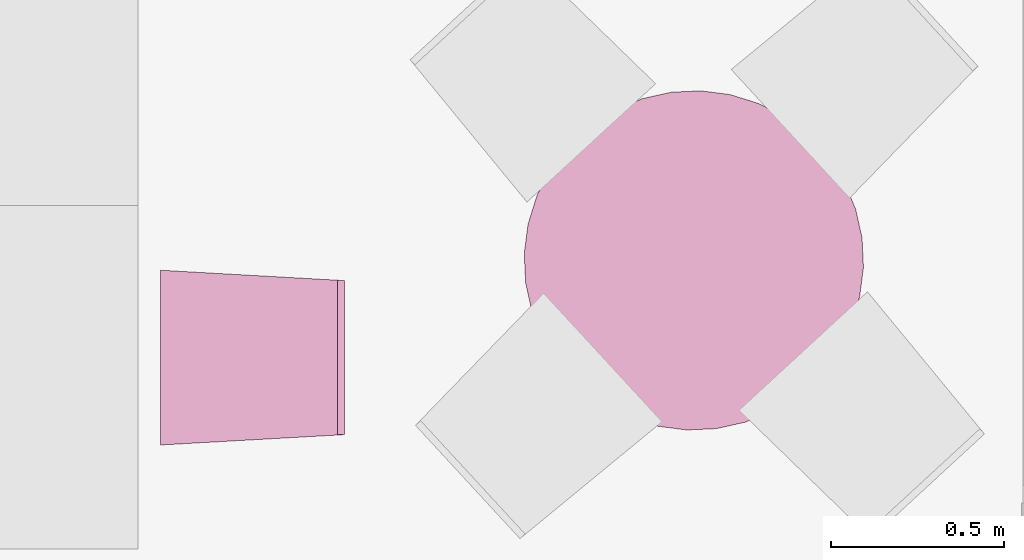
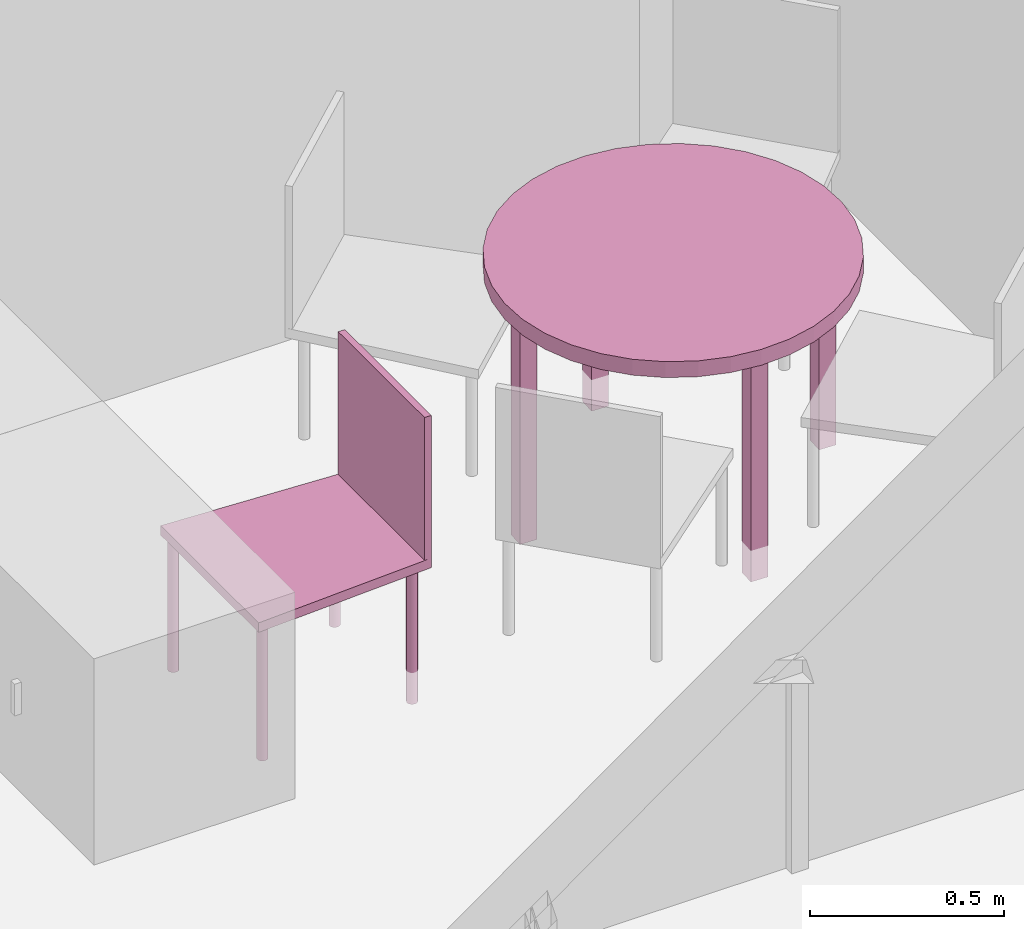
"""IFC4 building model written with IfcOpenShell, lengths in metres."""

from ifc_helpers import new_model, entity, si_unit, converted_unit, derived_unit, frame, origin, place, context, subcontext, project, spatial, faceted_brep, element, save


model = new_model("IFC4")

# Units and contexts
model_context = context("Model", 3, precision=1e-05, world=origin())
body_context = subcontext(model_context, "Body", "Model", "MODEL_VIEW")
ifc_project = project(units=[si_unit("LENGTHUNIT", "METRE"), si_unit("AREAUNIT", "SQUARE_METRE"), si_unit("VOLUMEUNIT", "CUBIC_METRE"), si_unit("MASSUNIT", "GRAM", prefix="KILO"), converted_unit("PLANEANGLEUNIT", "DEGREE", entity("IfcPlaneAngleMeasure", 0.0174532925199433), si_unit("PLANEANGLEUNIT", "RADIAN"), dimensions=[0, 0, 0, 0, 0, 0, 0]), derived_unit("THERMALTRANSMITTANCEUNIT", [(si_unit("POWERUNIT", "WATT"), 1), (si_unit("THERMODYNAMICTEMPERATUREUNIT", "KELVIN"), -1), (si_unit("LENGTHUNIT", "METRE"), -2)]), derived_unit("VOLUMETRICFLOWRATEUNIT", [(si_unit("LENGTHUNIT", "METRE"), 3), (converted_unit("TIMEUNIT", "hour", entity("IfcTimeMeasure", 3600.0), si_unit("TIMEUNIT", "SECOND"), dimensions=[0, 0, 1, 0, 0, 0, 0]), -1), (si_unit("LENGTHUNIT", "METRE"), -1)])], contexts=[model_context])

# Building, storeys
building_placement = place(None, origin())
building = spatial("IfcBuilding", under=ifc_project, at=building_placement, Name="HABITATGE PLURIFAMILIAR", CompositionType="ELEMENT")
storey_1_placement = place(building_placement, frame((0.0, 0.0, 12.27)))
storey_1 = spatial("IfcBuildingStorey", under=building, at=storey_1_placement, Name="PLANTA TERCERA", CompositionType="ELEMENT", Elevation=12.27)
storey_2_placement = place(storey_1_placement, frame((0.0, 0.0, 9.26)))
storey_2 = spatial("IfcBuildingStorey", under=storey_1, at=storey_2_placement, Name="NOU", CompositionType="PARTIAL")

# Furniture
furniture_1_placement = place(storey_2_placement, frame((401.817637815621, 20.9508805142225, -9.36074913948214)))
element("IfcFurniture", 1, at=furniture_1_placement, inside=storey_2, Name="Cadira confident_P3", context=body_context, shape_type="Brep", body=[
    faceted_brep([(0.025088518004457, 0.00928763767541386, 0.0), (0.0276826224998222, 0.00951305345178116, 0.0), (0.0301981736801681, 0.0101855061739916, 0.0), (0.0325587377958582, 0.0112845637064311, 0.0), (0.0346925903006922, 0.0127768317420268, 0.0), (0.0365348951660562, 0.0146169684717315, 0.0), (0.038029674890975, 0.0167490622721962, 0.0), (0.0391315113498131, 0.0191083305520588, 0.0), (0.0398069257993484, 0.0216230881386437, 0.0), (0.0400353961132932, 0.0242169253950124, 0.0), (0.0398099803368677, 0.0268110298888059, 0.0), (0.0391375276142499, 0.0293265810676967, 0.0), (0.0380384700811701, 0.0316871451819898, 0.0), (0.036546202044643, 0.0338209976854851, 0.0), (0.0347060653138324, 0.0356633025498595, 0.0), (0.0325739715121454, 0.037158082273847, 0.0), (0.0302147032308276, 0.0382599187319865, 0.0), (0.0276999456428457, 0.0389353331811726, 0.0), (0.0251061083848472, 0.0391638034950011, 0.0), (0.022512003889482, 0.0389383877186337, 0.0), (0.0199964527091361, 0.0382659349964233, 0.0), (0.0176358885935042, 0.037166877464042, 0.0), (0.0155020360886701, 0.0356746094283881, 0.0), (0.0136597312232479, 0.0338344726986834, 0.0), (0.0121649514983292, 0.0317023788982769, 0.0), (0.0110631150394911, 0.0293431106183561, 0.0), (0.0103877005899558, 0.0268283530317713, 0.0), (0.0101592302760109, 0.0242345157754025, 0.0), (0.0103846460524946, 0.021640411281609, 0.0), (0.0110570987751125, 0.0191248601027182, 0.0), (0.0121561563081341, 0.0167642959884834, 0.0), (0.0136484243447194, 0.0146304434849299, 0.0), (0.01548856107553, 0.0127881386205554, 0.0), (0.017620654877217, 0.0112933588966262, 0.0), (0.0199799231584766, 0.0101915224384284, 0.0), (0.0224946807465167, 0.0095161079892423, 0.0), (0.025088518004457, 0.00928763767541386, 0.448281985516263), (0.0224946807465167, 0.0095161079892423, 0.448281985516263), (0.0199799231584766, 0.0101915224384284, 0.448281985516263), (0.017620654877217, 0.0112933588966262, 0.448281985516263), (0.01548856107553, 0.0127881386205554, 0.448281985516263), (0.0136484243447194, 0.0146304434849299, 0.448281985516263), (0.0121561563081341, 0.0167642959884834, 0.448281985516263), (0.0110570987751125, 0.0191248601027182, 0.448281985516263), (0.0103846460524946, 0.021640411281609, 0.448281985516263), (0.0101592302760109, 0.0242345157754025, 0.448281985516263), (0.0103877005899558, 0.0268283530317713, 0.448281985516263), (0.0110631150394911, 0.0293431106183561, 0.448281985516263), (0.0121649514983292, 0.0317023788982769, 0.448281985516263), (0.0136597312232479, 0.0338344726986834, 0.448281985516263), (0.0155020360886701, 0.0356746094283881, 0.448281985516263), (0.0176358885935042, 0.037166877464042, 0.448281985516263), (0.0199964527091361, 0.0382659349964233, 0.448281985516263), (0.022512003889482, 0.0389383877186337, 0.448281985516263), (0.0251061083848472, 0.0391638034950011, 0.448281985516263), (0.0276999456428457, 0.0389353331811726, 0.448281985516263), (0.0302147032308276, 0.0382599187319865, 0.448281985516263), (0.0325739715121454, 0.037158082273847, 0.448281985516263), (0.0347060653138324, 0.0356633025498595, 0.448281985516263), (0.036546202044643, 0.0338209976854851, 0.448281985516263), (0.0380384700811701, 0.0316871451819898, 0.448281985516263), (0.0391375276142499, 0.0293265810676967, 0.448281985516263), (0.0398099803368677, 0.0268110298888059, 0.448281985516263), (0.0400353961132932, 0.0242169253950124, 0.448281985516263), (0.0398069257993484, 0.0216230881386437, 0.448281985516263), (0.0391315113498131, 0.0191083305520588, 0.448281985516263), (0.038029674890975, 0.0167490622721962, 0.448281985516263), (0.0365348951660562, 0.0146169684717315, 0.448281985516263), (0.0346925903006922, 0.0127768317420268, 0.448281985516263), (0.0325587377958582, 0.0112845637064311, 0.448281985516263), (0.0301981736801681, 0.0101855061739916, 0.448281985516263), (0.0276826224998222, 0.00951305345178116, 0.448281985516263)], [[[0, 1, 2, 3, 4, 5, 6, 7, 8, 9, 10, 11, 12, 13, 14, 15, 16, 17, 18, 19, 20, 21, 22, 23, 24, 25, 26, 27, 28, 29, 30, 31, 32, 33, 34, 35]], [[36, 37, 38, 39, 40, 41, 42, 43, 44, 45, 46, 47, 48, 49, 50, 51, 52, 53, 54, 55, 56, 57, 58, 59, 60, 61, 62, 63, 64, 65, 66, 67, 68, 69, 70, 71]], [[1, 0, 36, 71]], [[2, 1, 71, 70]], [[3, 2, 70, 69]], [[4, 3, 69, 68]], [[5, 4, 68, 67]], [[6, 5, 67, 66]], [[7, 6, 66, 65]], [[8, 7, 65, 64]], [[9, 8, 64, 63]], [[10, 9, 63, 62]], [[11, 10, 62, 61]], [[12, 11, 61, 60]], [[13, 12, 60, 59]], [[14, 13, 59, 58]], [[15, 14, 58, 57]], [[16, 15, 57, 56]], [[17, 16, 56, 55]], [[18, 17, 55, 54]], [[19, 18, 54, 53]], [[20, 19, 53, 52]], [[21, 20, 52, 51]], [[22, 21, 51, 50]], [[23, 22, 50, 49]], [[24, 23, 49, 48]], [[25, 24, 48, 47]], [[26, 25, 47, 46]], [[27, 26, 46, 45]], [[28, 27, 45, 44]], [[29, 28, 44, 43]], [[30, 29, 43, 42]], [[31, 30, 42, 41]], [[32, 31, 41, 40]], [[33, 32, 40, 39]], [[34, 33, 39, 38]], [[35, 34, 38, 37]], [[0, 35, 37, 36]]], orient=[[False], [False], [False], [False], [False], [False], [False], [False], [False], [False], [False], [False], [False], [False], [False], [False], [False], [False], [False], [False], [False], [False], [False], [False], [False], [False], [False], [False], [False], [False], [False], [False], [False], [False], [False], [False], [False], [False]]),
    faceted_brep([(0.487495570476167, 0.0369256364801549, 0.0), (0.490089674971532, 0.0371510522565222, 0.0), (0.492605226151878, 0.0378235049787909, 0.0), (0.494965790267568, 0.0389225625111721, 0.0), (0.497099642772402, 0.0404148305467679, 0.0), (0.498941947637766, 0.0422549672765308, 0.0), (0.500436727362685, 0.0443870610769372, 0.0), (0.501538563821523, 0.0467463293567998, 0.0), (0.502213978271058, 0.0492610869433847, 0.0), (0.502442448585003, 0.0518549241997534, 0.0), (0.502217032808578, 0.054449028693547, 0.0), (0.501544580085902, 0.0569645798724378, 0.0), (0.50044552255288, 0.0593251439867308, 0.0), (0.498953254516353, 0.0614589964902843, 0.0), (0.497113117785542, 0.0633013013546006, 0.0), (0.494981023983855, 0.064796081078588, 0.0), (0.492621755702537, 0.0658979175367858, 0.0), (0.490106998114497, 0.0665733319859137, 0.0), (0.487513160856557, 0.0668018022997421, 0.0), (0.484919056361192, 0.066576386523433, 0.0), (0.482403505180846, 0.0659039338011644, 0.0), (0.480042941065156, 0.0648048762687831, 0.0), (0.47790908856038, 0.0633126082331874, 0.0), (0.476066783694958, 0.0614724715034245, 0.0), (0.474572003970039, 0.059340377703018, 0.0), (0.473470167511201, 0.0569811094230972, 0.0), (0.472794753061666, 0.0544663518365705, 0.0), (0.472566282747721, 0.0518725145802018, 0.0), (0.472791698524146, 0.0492784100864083, 0.0), (0.473464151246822, 0.0467628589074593, 0.0), (0.474563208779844, 0.0444022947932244, 0.0), (0.476055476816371, 0.0422684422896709, 0.0), (0.477895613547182, 0.0404261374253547, 0.0), (0.480027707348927, 0.0389313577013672, 0.0), (0.482386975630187, 0.0378295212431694, 0.0), (0.484901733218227, 0.0371541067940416, 0.0), (0.487495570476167, 0.0369256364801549, 0.448281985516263), (0.484901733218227, 0.0371541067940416, 0.448281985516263), (0.482386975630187, 0.0378295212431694, 0.448281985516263), (0.480027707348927, 0.0389313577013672, 0.448281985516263), (0.477895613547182, 0.0404261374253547, 0.448281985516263), (0.476055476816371, 0.0422684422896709, 0.448281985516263), (0.474563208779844, 0.0444022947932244, 0.448281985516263), (0.473464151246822, 0.0467628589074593, 0.448281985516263), (0.472791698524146, 0.0492784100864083, 0.448281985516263), (0.472566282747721, 0.0518725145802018, 0.448281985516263), (0.472794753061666, 0.0544663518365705, 0.448281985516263), (0.473470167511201, 0.0569811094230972, 0.448281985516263), (0.474572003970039, 0.059340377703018, 0.448281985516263), (0.476066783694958, 0.0614724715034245, 0.448281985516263), (0.47790908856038, 0.0633126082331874, 0.448281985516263), (0.480042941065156, 0.0648048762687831, 0.448281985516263), (0.482403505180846, 0.0659039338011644, 0.448281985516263), (0.484919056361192, 0.066576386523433, 0.448281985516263), (0.487513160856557, 0.0668018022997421, 0.448281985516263), (0.490106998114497, 0.0665733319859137, 0.448281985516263), (0.492621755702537, 0.0658979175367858, 0.448281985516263), (0.494981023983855, 0.064796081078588, 0.448281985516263), (0.497113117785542, 0.0633013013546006, 0.448281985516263), (0.498953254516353, 0.0614589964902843, 0.448281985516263), (0.50044552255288, 0.0593251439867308, 0.448281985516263), (0.501544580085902, 0.0569645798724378, 0.448281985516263), (0.502217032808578, 0.054449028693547, 0.448281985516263), (0.502442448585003, 0.0518549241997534, 0.448281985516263), (0.502213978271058, 0.0492610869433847, 0.448281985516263), (0.501538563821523, 0.0467463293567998, 0.448281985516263), (0.500436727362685, 0.0443870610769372, 0.448281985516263), (0.498941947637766, 0.0422549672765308, 0.448281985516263), (0.497099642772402, 0.0404148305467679, 0.448281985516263), (0.494965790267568, 0.0389225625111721, 0.448281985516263), (0.492605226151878, 0.0378235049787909, 0.448281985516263), (0.490089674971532, 0.0371510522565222, 0.448281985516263)], [[[0, 1, 2, 3, 4, 5, 6, 7, 8, 9, 10, 11, 12, 13, 14, 15, 16, 17, 18, 19, 20, 21, 22, 23, 24, 25, 26, 27, 28, 29, 30, 31, 32, 33, 34, 35]], [[36, 37, 38, 39, 40, 41, 42, 43, 44, 45, 46, 47, 48, 49, 50, 51, 52, 53, 54, 55, 56, 57, 58, 59, 60, 61, 62, 63, 64, 65, 66, 67, 68, 69, 70, 71]], [[1, 0, 36, 71]], [[2, 1, 71, 70]], [[3, 2, 70, 69]], [[4, 3, 69, 68]], [[5, 4, 68, 67]], [[6, 5, 67, 66]], [[7, 6, 66, 65]], [[8, 7, 65, 64]], [[9, 8, 64, 63]], [[10, 9, 63, 62]], [[11, 10, 62, 61]], [[12, 11, 61, 60]], [[13, 12, 60, 59]], [[14, 13, 59, 58]], [[15, 14, 58, 57]], [[16, 15, 57, 56]], [[17, 16, 56, 55]], [[18, 17, 55, 54]], [[19, 18, 54, 53]], [[20, 19, 53, 52]], [[21, 20, 52, 51]], [[22, 21, 51, 50]], [[23, 22, 50, 49]], [[24, 23, 49, 48]], [[25, 24, 48, 47]], [[26, 25, 47, 46]], [[27, 26, 46, 45]], [[28, 27, 45, 44]], [[29, 28, 44, 43]], [[30, 29, 43, 42]], [[31, 30, 42, 41]], [[32, 31, 41, 40]], [[33, 32, 40, 39]], [[34, 33, 39, 38]], [[35, 34, 38, 37]], [[0, 35, 37, 36]]], orient=[[False], [False], [False], [False], [False], [False], [False], [False], [False], [False], [False], [False], [False], [False], [False], [False], [False], [False], [False], [False], [False], [False], [False], [False], [False], [False], [False], [False], [False], [False], [False], [False], [False], [False], [False], [False], [False], [False]]),
    faceted_brep([(0.0250885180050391, 0.469287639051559, 0.0), (0.0276826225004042, 0.469513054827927, 0.0), (0.0301981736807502, 0.470185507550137, 0.0), (0.032558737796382, 0.471284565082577, 0.0), (0.0346925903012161, 0.472776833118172, 0.0), (0.0365348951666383, 0.474616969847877, 0.0), (0.0380296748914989, 0.476749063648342, 0.0), (0.0391315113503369, 0.479108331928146, 0.0), (0.0398069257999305, 0.481623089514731, 0.0), (0.0400353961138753, 0.484216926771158, 0.0), (0.0398099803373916, 0.486811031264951, 0.0), (0.0391375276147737, 0.489326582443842, 0.0), (0.038038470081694, 0.491687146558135, 0.0), (0.0365462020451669, 0.493820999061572, 0.0), (0.0347060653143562, 0.495663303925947, 0.0), (0.0325739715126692, 0.497158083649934, 0.0), (0.0302147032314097, 0.498259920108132, 0.0), (0.0276999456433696, 0.498935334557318, 0.0), (0.0251061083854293, 0.499163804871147, 0.0), (0.0225120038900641, 0.498938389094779, 0.0), (0.0199964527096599, 0.498265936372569, 0.0), (0.0176358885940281, 0.497166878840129, 0.0), (0.015502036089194, 0.495674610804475, 0.0), (0.01365973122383, 0.493834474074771, 0.0), (0.0121649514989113, 0.491702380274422, 0.0), (0.0110631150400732, 0.489343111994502, 0.0), (0.0103877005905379, 0.486828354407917, 0.0), (0.0101592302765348, 0.484234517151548, 0.0), (0.0103846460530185, 0.481640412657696, 0.0), (0.0110570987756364, 0.479124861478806, 0.0), (0.0121561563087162, 0.476764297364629, 0.0), (0.0136484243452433, 0.474630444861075, 0.0), (0.0154885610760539, 0.472788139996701, 0.0), (0.0176206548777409, 0.471293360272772, 0.0), (0.0199799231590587, 0.470191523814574, 0.0), (0.0224946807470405, 0.469516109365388, 0.0), (0.0250885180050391, 0.469287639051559, 0.448281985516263), (0.0224946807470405, 0.469516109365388, 0.448281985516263), (0.0199799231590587, 0.470191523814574, 0.448281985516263), (0.0176206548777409, 0.471293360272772, 0.448281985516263), (0.0154885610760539, 0.472788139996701, 0.448281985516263), (0.0136484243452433, 0.474630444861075, 0.448281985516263), (0.0121561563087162, 0.476764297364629, 0.448281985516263), (0.0110570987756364, 0.479124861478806, 0.448281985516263), (0.0103846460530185, 0.481640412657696, 0.448281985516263), (0.0101592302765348, 0.484234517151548, 0.448281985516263), (0.0103877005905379, 0.486828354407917, 0.448281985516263), (0.0110631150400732, 0.489343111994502, 0.448281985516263), (0.0121649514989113, 0.491702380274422, 0.448281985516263), (0.01365973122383, 0.493834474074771, 0.448281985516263), (0.015502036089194, 0.495674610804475, 0.448281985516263), (0.0176358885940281, 0.497166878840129, 0.448281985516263), (0.0199964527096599, 0.498265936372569, 0.448281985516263), (0.0225120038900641, 0.498938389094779, 0.448281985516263), (0.0251061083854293, 0.499163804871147, 0.448281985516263), (0.0276999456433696, 0.498935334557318, 0.448281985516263), (0.0302147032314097, 0.498259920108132, 0.448281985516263), (0.0325739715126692, 0.497158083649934, 0.448281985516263), (0.0347060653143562, 0.495663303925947, 0.448281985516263), (0.0365462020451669, 0.493820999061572, 0.448281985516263), (0.038038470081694, 0.491687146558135, 0.448281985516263), (0.0391375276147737, 0.489326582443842, 0.448281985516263), (0.0398099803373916, 0.486811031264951, 0.448281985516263), (0.0400353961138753, 0.484216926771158, 0.448281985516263), (0.0398069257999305, 0.481623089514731, 0.448281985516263), (0.0391315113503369, 0.479108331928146, 0.448281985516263), (0.0380296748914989, 0.476749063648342, 0.448281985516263), (0.0365348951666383, 0.474616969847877, 0.448281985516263), (0.0346925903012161, 0.472776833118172, 0.448281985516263), (0.032558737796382, 0.471284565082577, 0.448281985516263), (0.0301981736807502, 0.470185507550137, 0.448281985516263), (0.0276826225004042, 0.469513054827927, 0.448281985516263)], [[[0, 1, 2, 3, 4, 5, 6, 7, 8, 9, 10, 11, 12, 13, 14, 15, 16, 17, 18, 19, 20, 21, 22, 23, 24, 25, 26, 27, 28, 29, 30, 31, 32, 33, 34, 35]], [[36, 37, 38, 39, 40, 41, 42, 43, 44, 45, 46, 47, 48, 49, 50, 51, 52, 53, 54, 55, 56, 57, 58, 59, 60, 61, 62, 63, 64, 65, 66, 67, 68, 69, 70, 71]], [[1, 0, 36, 71]], [[2, 1, 71, 70]], [[3, 2, 70, 69]], [[4, 3, 69, 68]], [[5, 4, 68, 67]], [[6, 5, 67, 66]], [[7, 6, 66, 65]], [[8, 7, 65, 64]], [[9, 8, 64, 63]], [[10, 9, 63, 62]], [[11, 10, 62, 61]], [[12, 11, 61, 60]], [[13, 12, 60, 59]], [[14, 13, 59, 58]], [[15, 14, 58, 57]], [[16, 15, 57, 56]], [[17, 16, 56, 55]], [[18, 17, 55, 54]], [[19, 18, 54, 53]], [[20, 19, 53, 52]], [[21, 20, 52, 51]], [[22, 21, 51, 50]], [[23, 22, 50, 49]], [[24, 23, 49, 48]], [[25, 24, 48, 47]], [[26, 25, 47, 46]], [[27, 26, 46, 45]], [[28, 27, 45, 44]], [[29, 28, 44, 43]], [[30, 29, 43, 42]], [[31, 30, 42, 41]], [[32, 31, 41, 40]], [[33, 32, 40, 39]], [[34, 33, 39, 38]], [[35, 34, 38, 37]], [[0, 35, 37, 36]]], orient=[[False], [False], [False], [False], [False], [False], [False], [False], [False], [False], [False], [False], [False], [False], [False], [False], [False], [False], [False], [False], [False], [False], [False], [False], [False], [False], [False], [False], [False], [False], [False], [False], [False], [False], [False], [False], [False], [False]]),
    faceted_brep([(0.487495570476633, 0.436925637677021, 0.0), (0.490089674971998, 0.43715105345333, 0.0), (0.492605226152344, 0.437823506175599, 0.0), (0.494965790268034, 0.43892256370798, 0.0), (0.49709964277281, 0.440414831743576, 0.0), (0.498941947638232, 0.442254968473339, 0.0), (0.500436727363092, 0.444387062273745, 0.0), (0.50153856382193, 0.446746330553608, 0.0), (0.502213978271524, 0.449261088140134, 0.0), (0.502442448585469, 0.451854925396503, 0.0), (0.502217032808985, 0.454449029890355, 0.0), (0.501544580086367, 0.456964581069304, 0.0), (0.500445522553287, 0.45932514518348, 0.0), (0.498953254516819, 0.461458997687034, 0.0), (0.49711311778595, 0.46330130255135, 0.0), (0.494981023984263, 0.464796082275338, 0.0), (0.492621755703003, 0.465897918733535, 0.0), (0.490106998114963, 0.466573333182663, 0.0), (0.487513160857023, 0.46680180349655, 0.0), (0.484919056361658, 0.466576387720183, 0.0), (0.482403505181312, 0.465903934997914, 0.0), (0.480042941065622, 0.464804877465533, 0.0), (0.477909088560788, 0.463312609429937, 0.0), (0.476066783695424, 0.461472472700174, 0.0), (0.474572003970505, 0.459340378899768, 0.0), (0.473470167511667, 0.456981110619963, 0.0), (0.472794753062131, 0.454466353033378, 0.0), (0.472566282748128, 0.451872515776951, 0.0), (0.472791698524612, 0.449278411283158, 0.0), (0.47346415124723, 0.446762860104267, 0.0), (0.47456320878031, 0.444402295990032, 0.0), (0.476055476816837, 0.442268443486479, 0.0), (0.477895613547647, 0.440426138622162, 0.0), (0.480027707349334, 0.438931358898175, 0.0), (0.482386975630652, 0.437829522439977, 0.0), (0.484901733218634, 0.437154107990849, 0.0), (0.487495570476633, 0.436925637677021, 0.448281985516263), (0.484901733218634, 0.437154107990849, 0.448281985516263), (0.482386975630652, 0.437829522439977, 0.448281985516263), (0.480027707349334, 0.438931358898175, 0.448281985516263), (0.477895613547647, 0.440426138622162, 0.448281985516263), (0.476055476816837, 0.442268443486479, 0.448281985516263), (0.47456320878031, 0.444402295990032, 0.448281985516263), (0.47346415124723, 0.446762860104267, 0.448281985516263), (0.472791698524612, 0.449278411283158, 0.448281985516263), (0.472566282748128, 0.451872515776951, 0.448281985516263), (0.472794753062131, 0.454466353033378, 0.448281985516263), (0.473470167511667, 0.456981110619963, 0.448281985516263), (0.474572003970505, 0.459340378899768, 0.448281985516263), (0.476066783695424, 0.461472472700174, 0.448281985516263), (0.477909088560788, 0.463312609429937, 0.448281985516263), (0.480042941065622, 0.464804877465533, 0.448281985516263), (0.482403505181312, 0.465903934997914, 0.448281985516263), (0.484919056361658, 0.466576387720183, 0.448281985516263), (0.487513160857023, 0.46680180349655, 0.448281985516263), (0.490106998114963, 0.466573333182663, 0.448281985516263), (0.492621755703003, 0.465897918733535, 0.448281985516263), (0.494981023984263, 0.464796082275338, 0.448281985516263), (0.49711311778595, 0.46330130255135, 0.448281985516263), (0.498953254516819, 0.461458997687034, 0.448281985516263), (0.500445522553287, 0.45932514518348, 0.448281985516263), (0.501544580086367, 0.456964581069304, 0.448281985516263), (0.502217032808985, 0.454449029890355, 0.448281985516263), (0.502442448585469, 0.451854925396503, 0.448281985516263), (0.502213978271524, 0.449261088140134, 0.448281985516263), (0.50153856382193, 0.446746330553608, 0.448281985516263), (0.500436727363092, 0.444387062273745, 0.448281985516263), (0.498941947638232, 0.442254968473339, 0.448281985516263), (0.49709964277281, 0.440414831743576, 0.448281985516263), (0.494965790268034, 0.43892256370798, 0.448281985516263), (0.492605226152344, 0.437823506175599, 0.448281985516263), (0.490089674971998, 0.43715105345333, 0.448281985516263)], [[[0, 1, 2, 3, 4, 5, 6, 7, 8, 9, 10, 11, 12, 13, 14, 15, 16, 17, 18, 19, 20, 21, 22, 23, 24, 25, 26, 27, 28, 29, 30, 31, 32, 33, 34, 35]], [[36, 37, 38, 39, 40, 41, 42, 43, 44, 45, 46, 47, 48, 49, 50, 51, 52, 53, 54, 55, 56, 57, 58, 59, 60, 61, 62, 63, 64, 65, 66, 67, 68, 69, 70, 71]], [[1, 0, 36, 71]], [[2, 1, 71, 70]], [[3, 2, 70, 69]], [[4, 3, 69, 68]], [[5, 4, 68, 67]], [[6, 5, 67, 66]], [[7, 6, 66, 65]], [[8, 7, 65, 64]], [[9, 8, 64, 63]], [[10, 9, 63, 62]], [[11, 10, 62, 61]], [[12, 11, 61, 60]], [[13, 12, 60, 59]], [[14, 13, 59, 58]], [[15, 14, 58, 57]], [[16, 15, 57, 56]], [[17, 16, 56, 55]], [[18, 17, 55, 54]], [[19, 18, 54, 53]], [[20, 19, 53, 52]], [[21, 20, 52, 51]], [[22, 21, 51, 50]], [[23, 22, 50, 49]], [[24, 23, 49, 48]], [[25, 24, 48, 47]], [[26, 25, 47, 46]], [[27, 26, 46, 45]], [[28, 27, 45, 44]], [[29, 28, 44, 43]], [[30, 29, 43, 42]], [[31, 30, 42, 41]], [[32, 31, 41, 40]], [[33, 32, 40, 39]], [[34, 33, 39, 38]], [[35, 34, 38, 37]], [[0, 35, 37, 36]]], orient=[[False], [False], [False], [False], [False], [False], [False], [False], [False], [False], [False], [False], [False], [False], [False], [False], [False], [False], [False], [False], [False], [False], [False], [False], [False], [False], [False], [False], [False], [False], [False], [False], [False], [False], [False], [False], [False], [False]]),
    faceted_brep([(0.532607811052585, 0.476514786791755, 0.418281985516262), (0.0, 0.506514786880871, 0.418281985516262), (0.0, 0.0, 0.418281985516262), (0.532607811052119, 0.0300000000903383, 0.418281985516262), (0.0, 0.506514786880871, 0.448281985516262), (0.532607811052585, 0.476514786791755, 0.448281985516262), (0.532607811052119, 0.0300000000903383, 0.448281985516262), (0.0, 0.0, 0.448281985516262)], [[[0, 1, 2, 3]], [[4, 5, 6, 7]], [[1, 0, 5, 4]], [[2, 1, 4, 7]], [[3, 2, 7, 6]], [[0, 3, 6, 5]]], orient=[[False], [False], [False], [False], [False], [False]]),
    faceted_brep([(0.512607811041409, 0.476514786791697, 0.448281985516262), (0.512607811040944, 0.0300000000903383, 0.448281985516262), (0.532607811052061, 0.0300000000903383, 0.448281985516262), (0.532607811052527, 0.476514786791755, 0.448281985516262), (0.512607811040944, 0.0300000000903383, 0.89828198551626), (0.512607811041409, 0.476514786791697, 0.89828198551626), (0.532607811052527, 0.476514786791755, 0.89828198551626), (0.532607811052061, 0.0300000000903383, 0.89828198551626)], [[[0, 1, 2, 3]], [[4, 5, 6, 7]], [[1, 0, 5, 4]], [[2, 1, 4, 7]], [[3, 2, 7, 6]], [[0, 3, 6, 5]]], orient=[[False], [False], [False], [False], [False], [False]]),
])
furniture_2_placement = place(storey_2_placement, frame((402.871670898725, 20.9943865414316, -9.3599999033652)))
element("IfcFurniture", 2, at=furniture_2_placement, inside=storey_2, Name="Taula D100_P3", context=body_context, shape_type="Brep", body=[
    faceted_brep([(0.471101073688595, 0.0, 0.7), (0.556751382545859, 0.00393119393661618, 0.7), (0.640417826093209, 0.0226756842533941, 0.7), (0.719558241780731, 0.0556639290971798, 0.7), (0.791767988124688, 0.101893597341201, 0.7), (0.854853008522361, 0.159960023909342, 0.7), (0.906896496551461, 0.228098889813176, 0.7), (0.94631713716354, 0.304239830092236, 0.7), (0.971917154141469, 0.386069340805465, 0.7), (0.982918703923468, 0.471101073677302, 0.7), (0.97898750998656, 0.556751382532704, 0.7), (0.960243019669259, 0.640417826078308, 0.7), (0.9272547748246, 0.719558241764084, 0.7), (0.881025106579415, 0.791767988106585, 0.7), (0.822958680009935, 0.85485300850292, 0.7), (0.75481981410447, 0.90689649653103, 0.7), (0.678678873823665, 0.946317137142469, 0.7), (0.596849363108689, 0.971917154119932, 0.7), (0.511817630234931, 0.982918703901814, 0.7), (0.426167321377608, 0.978987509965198, 0.7), (0.342500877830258, 0.960243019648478, 0.7), (0.263360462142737, 0.927254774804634, 0.7), (0.19115071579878, 0.881025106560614, 0.7), (0.128065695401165, 0.822958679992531, 0.7), (0.076022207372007, 0.754819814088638, 0.7), (0.0366015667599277, 0.678678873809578, 0.7), (0.0110015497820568, 0.596849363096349, 0.7), (0.0, 0.511817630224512, 0.7), (0.00393119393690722, 0.42616732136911, 0.7), (0.022675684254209, 0.342500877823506, 0.7), (0.0556639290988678, 0.263360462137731, 0.7), (0.101893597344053, 0.191150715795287, 0.7), (0.159960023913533, 0.128065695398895, 0.7), (0.228098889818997, 0.0760222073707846, 0.7), (0.304239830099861, 0.0366015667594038, 0.7), (0.386069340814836, 0.0110015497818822, 0.7), (0.471101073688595, 0.0, 0.75), (0.386069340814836, 0.0110015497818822, 0.75), (0.304239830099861, 0.0366015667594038, 0.75), (0.228098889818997, 0.0760222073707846, 0.75), (0.159960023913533, 0.128065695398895, 0.75), (0.101893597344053, 0.191150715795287, 0.75), (0.0556639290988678, 0.263360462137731, 0.75), (0.022675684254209, 0.342500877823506, 0.75), (0.00393119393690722, 0.42616732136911, 0.75), (0.0, 0.511817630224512, 0.75), (0.0110015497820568, 0.596849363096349, 0.75), (0.0366015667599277, 0.678678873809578, 0.75), (0.076022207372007, 0.754819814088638, 0.75), (0.128065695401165, 0.822958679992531, 0.75), (0.19115071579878, 0.881025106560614, 0.75), (0.263360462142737, 0.927254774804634, 0.75), (0.342500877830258, 0.960243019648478, 0.75), (0.426167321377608, 0.978987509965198, 0.75), (0.511817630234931, 0.982918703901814, 0.75), (0.596849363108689, 0.971917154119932, 0.75), (0.678678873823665, 0.946317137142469, 0.75), (0.75481981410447, 0.90689649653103, 0.75), (0.822958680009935, 0.85485300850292, 0.75), (0.881025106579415, 0.791767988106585, 0.75), (0.9272547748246, 0.719558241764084, 0.75), (0.960243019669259, 0.640417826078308, 0.75), (0.97898750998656, 0.556751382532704, 0.75), (0.982918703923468, 0.471101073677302, 0.75), (0.971917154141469, 0.386069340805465, 0.75), (0.94631713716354, 0.304239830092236, 0.75), (0.906896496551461, 0.228098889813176, 0.75), (0.854853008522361, 0.159960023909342, 0.75), (0.791767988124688, 0.101893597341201, 0.75), (0.719558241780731, 0.0556639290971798, 0.75), (0.640417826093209, 0.0226756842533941, 0.75), (0.556751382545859, 0.00393119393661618, 0.75)], [[[0, 1, 2, 3, 4, 5, 6, 7, 8, 9, 10, 11, 12, 13, 14, 15, 16, 17, 18, 19, 20, 21, 22, 23, 24, 25, 26, 27, 28, 29, 30, 31, 32, 33, 34, 35]], [[36, 37, 38, 39, 40, 41, 42, 43, 44, 45, 46, 47, 48, 49, 50, 51, 52, 53, 54, 55, 56, 57, 58, 59, 60, 61, 62, 63, 64, 65, 66, 67, 68, 69, 70, 71]], [[1, 0, 36, 71]], [[2, 1, 71, 70]], [[3, 2, 70, 69]], [[4, 3, 69, 68]], [[5, 4, 68, 67]], [[6, 5, 67, 66]], [[7, 6, 66, 65]], [[8, 7, 65, 64]], [[9, 8, 64, 63]], [[10, 9, 63, 62]], [[11, 10, 62, 61]], [[12, 11, 61, 60]], [[13, 12, 60, 59]], [[14, 13, 59, 58]], [[15, 14, 58, 57]], [[16, 15, 57, 56]], [[17, 16, 56, 55]], [[18, 17, 55, 54]], [[19, 18, 54, 53]], [[20, 19, 53, 52]], [[21, 20, 52, 51]], [[22, 21, 51, 50]], [[23, 22, 50, 49]], [[24, 23, 49, 48]], [[25, 24, 48, 47]], [[26, 25, 47, 46]], [[27, 26, 46, 45]], [[28, 27, 45, 44]], [[29, 28, 44, 43]], [[30, 29, 43, 42]], [[31, 30, 42, 41]], [[32, 31, 41, 40]], [[33, 32, 40, 39]], [[34, 33, 39, 38]], [[35, 34, 38, 37]], [[0, 35, 37, 36]]], orient=[[False], [False], [False], [False], [False], [False], [False], [False], [False], [False], [False], [False], [False], [False], [False], [False], [False], [False], [False], [False], [False], [False], [False], [False], [False], [False], [False], [False], [False], [False], [False], [False], [False], [False], [False], [False], [False], [False]]),
    faceted_brep([(0.0789053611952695, 0.526002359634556, 0.0), (0.028948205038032, 0.528071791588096, 0.0), (0.0268787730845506, 0.478114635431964, 0.0), (0.0768359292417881, 0.476045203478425, 0.0), (0.028948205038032, 0.528071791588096, 0.7), (0.0789053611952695, 0.526002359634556, 0.7), (0.0768359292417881, 0.476045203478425, 0.7), (0.0268787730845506, 0.478114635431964, 0.7)], [[[0, 1, 2, 3]], [[4, 5, 6, 7]], [[1, 0, 5, 4]], [[2, 1, 4, 7]], [[3, 2, 7, 6]], [[0, 3, 6, 5]]], orient=[[False], [False], [False], [False], [False], [False]]),
    faceted_brep([(0.538939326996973, 0.953619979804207, 0.0), (0.488982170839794, 0.955689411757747, 0.0), (0.486912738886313, 0.905732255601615, 0.0), (0.536869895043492, 0.903662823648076, 0.0), (0.488982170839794, 0.955689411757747, 0.7), (0.538939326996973, 0.953619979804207, 0.7), (0.536869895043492, 0.903662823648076, 0.7), (0.486912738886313, 0.905732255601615, 0.7)], [[[0, 1, 2, 3]], [[4, 5, 6, 7]], [[1, 0, 5, 4]], [[2, 1, 4, 7]], [[3, 2, 7, 6]], [[0, 3, 6, 5]]], orient=[[False], [False], [False], [False], [False], [False]]),
    faceted_brep([(0.96088470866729, 0.508700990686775, 0.0), (0.910927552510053, 0.510770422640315, 0.0), (0.908858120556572, 0.460813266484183, 0.0), (0.958815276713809, 0.458743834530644, 0.0), (0.910927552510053, 0.510770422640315, 0.7), (0.96088470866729, 0.508700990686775, 0.7), (0.958815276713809, 0.458743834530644, 0.7), (0.908858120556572, 0.460813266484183, 0.7)], [[[0, 1, 2, 3]], [[4, 5, 6, 7]], [[1, 0, 5, 4]], [[2, 1, 4, 7]], [[3, 2, 7, 6]], [[0, 3, 6, 5]]], orient=[[False], [False], [False], [False], [False], [False]]),
    faceted_brep([(0.510656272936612, 0.0816530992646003, 0.0), (0.460699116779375, 0.0837225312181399, 0.0), (0.458629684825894, 0.0337653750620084, 0.0), (0.508586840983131, 0.0316959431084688, 0.0), (0.460699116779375, 0.0837225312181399, 0.7), (0.510656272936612, 0.0816530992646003, 0.7), (0.508586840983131, 0.0316959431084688, 0.7), (0.458629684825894, 0.0337653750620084, 0.7)], [[[0, 1, 2, 3]], [[4, 5, 6, 7]], [[1, 0, 5, 4]], [[2, 1, 4, 7]], [[3, 2, 7, 6]], [[0, 3, 6, 5]]], orient=[[False], [False], [False], [False], [False], [False]]),
])

save(model, "model.ifc")
